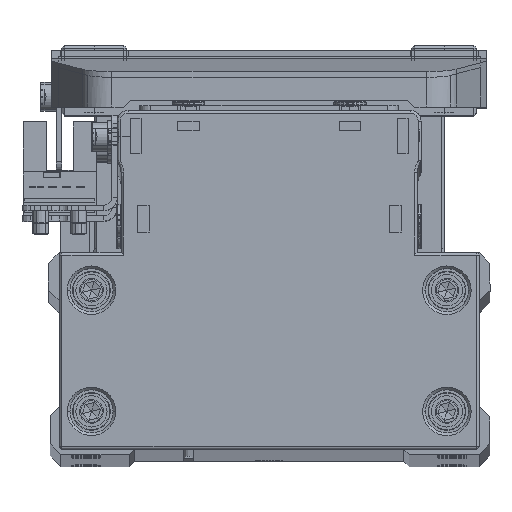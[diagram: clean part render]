
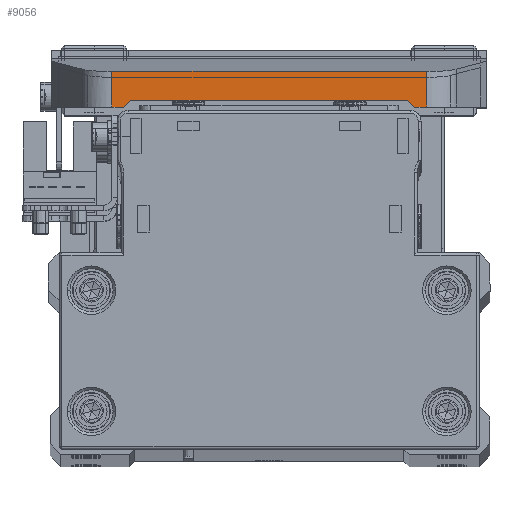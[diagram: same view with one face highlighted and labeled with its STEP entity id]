
A CAD part, top view. The second image highlights one B-rep face of the part: STEP entity #9056.
In plain terms, the highlighted planar face has unit normal (0, 0, 1) as drawn and (-1, 0, 0) by its records, which use the part's own axes.
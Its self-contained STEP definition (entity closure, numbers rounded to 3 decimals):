
#96 = CARTESIAN_POINT ( 'NONE',  ( -67.5, 9.3, 25.5 ) ) ;
#127 = EDGE_CURVE ( 'NONE', #29864, #5211, #14495, .T. ) ;
#1383 = VERTEX_POINT ( 'NONE', #36737 ) ;
#1514 = VECTOR ( 'NONE', #27348, 1000. ) ;
#2276 = ORIENTED_EDGE ( 'NONE', *, *, #24577, .T. ) ;
#2901 = LINE ( 'NONE', #15141, #1514 ) ;
#3125 = DIRECTION ( 'NONE',  ( 0., -1., 0. ) ) ;
#3418 = AXIS2_PLACEMENT_3D ( 'NONE', #8843, #21086, #33302 ) ;
#3722 = VERTEX_POINT ( 'NONE', #9275 ) ;
#3794 = CARTESIAN_POINT ( 'NONE',  ( -67.5, 4., -29.225 ) ) ;
#4105 = LINE ( 'NONE', #16347, #26069 ) ;
#5211 = VERTEX_POINT ( 'NONE', #38350 ) ;
#6226 = ORIENTED_EDGE ( 'NONE', *, *, #8178, .F. ) ;
#7132 = DIRECTION ( 'NONE',  ( 0., 0.655, -0.756 ) ) ;
#7924 = ORIENTED_EDGE ( 'NONE', *, *, #127, .T. ) ;
#8178 = EDGE_CURVE ( 'NONE', #11079, #26959, #38871, .T. ) ;
#8721 = EDGE_CURVE ( 'NONE', #5211, #1383, #27552, .T. ) ;
#8843 = CARTESIAN_POINT ( 'NONE',  ( -67.5, 10.6, 40.4 ) ) ;
#9056 = ADVANCED_FACE ( 'NONE', ( #24071 ), #36297, .F. ) ;
#9275 = CARTESIAN_POINT ( 'NONE',  ( -67.5, 10.6, -27. ) ) ;
#10059 = EDGE_CURVE ( 'NONE', #11079, #14516, #39611, .T. ) ;
#11079 = VERTEX_POINT ( 'NONE', #28709 ) ;
#11189 = VECTOR ( 'NONE', #24374, 1000. ) ;
#11406 = CARTESIAN_POINT ( 'NONE',  ( -67.5, 4., 40.4 ) ) ;
#12143 = CARTESIAN_POINT ( 'NONE',  ( -67.5, 10.6, 29.225 ) ) ;
#12332 = DIRECTION ( 'NONE',  ( 0., 0., -1. ) ) ;
#12473 = EDGE_CURVE ( 'NONE', #3722, #36906, #4105, .T. ) ;
#13298 = CARTESIAN_POINT ( 'NONE',  ( -67.5, 10.6, 27. ) ) ;
#14116 = ORIENTED_EDGE ( 'NONE', *, *, #8721, .T. ) ;
#14495 = LINE ( 'NONE', #26712, #15805 ) ;
#14516 = VERTEX_POINT ( 'NONE', #39527 ) ;
#15141 = CARTESIAN_POINT ( 'NONE',  ( -67.5, 10.6, 40.4 ) ) ;
#15765 = EDGE_CURVE ( 'NONE', #36906, #26959, #18364, .T. ) ;
#15805 = VECTOR ( 'NONE', #38958, 1000. ) ;
#16110 = ORIENTED_EDGE ( 'NONE', *, *, #10059, .T. ) ;
#16347 = CARTESIAN_POINT ( 'NONE',  ( -67.5, 10.6, 40.4 ) ) ;
#18364 = LINE ( 'NONE', #30580, #37762 ) ;
#20453 = VECTOR ( 'NONE', #23635, 1000. ) ;
#21086 = DIRECTION ( 'NONE',  ( 1., 0., 0. ) ) ;
#22376 = LINE ( 'NONE', #34593, #23416 ) ;
#23416 = VECTOR ( 'NONE', #7132, 1000. ) ;
#23635 = DIRECTION ( 'NONE',  ( 0., 0., -1. ) ) ;
#24071 = FACE_OUTER_BOUND ( 'NONE', #31873, .T. ) ;
#24374 = DIRECTION ( 'NONE',  ( 0., 1., 0. ) ) ;
#24577 = EDGE_CURVE ( 'NONE', #14516, #29864, #2901, .T. ) ;
#26069 = VECTOR ( 'NONE', #28552, 1000. ) ;
#26146 = CARTESIAN_POINT ( 'NONE',  ( -67.5, 10.6, -29.225 ) ) ;
#26712 = CARTESIAN_POINT ( 'NONE',  ( -67.5, 10.6, 27. ) ) ;
#26959 = VERTEX_POINT ( 'NONE', #3794 ) ;
#27348 = DIRECTION ( 'NONE',  ( 0., 0., -1. ) ) ;
#27552 = LINE ( 'NONE', #96, #34123 ) ;
#28057 = EDGE_CURVE ( 'NONE', #1383, #3722, #22376, .T. ) ;
#28552 = DIRECTION ( 'NONE',  ( 0., 0., -1. ) ) ;
#28709 = CARTESIAN_POINT ( 'NONE',  ( -67.5, 4., 29.225 ) ) ;
#29864 = VERTEX_POINT ( 'NONE', #13298 ) ;
#30302 = ORIENTED_EDGE ( 'NONE', *, *, #12473, .T. ) ;
#30580 = CARTESIAN_POINT ( 'NONE',  ( -67.5, 4., -29.225 ) ) ;
#31873 = EDGE_LOOP ( 'NONE', ( #14116, #32194, #30302, #39581, #6226, #16110, #2276, #7924 ) ) ;
#32194 = ORIENTED_EDGE ( 'NONE', *, *, #28057, .T. ) ;
#33302 = DIRECTION ( 'NONE',  ( 0., 0., -1. ) ) ;
#34123 = VECTOR ( 'NONE', #12332, 1000. ) ;
#34593 = CARTESIAN_POINT ( 'NONE',  ( -67.5, 10.6, -27. ) ) ;
#36297 = PLANE ( 'NONE',  #3418 ) ;
#36737 = CARTESIAN_POINT ( 'NONE',  ( -67.5, 9.3, -25.5 ) ) ;
#36906 = VERTEX_POINT ( 'NONE', #26146 ) ;
#37762 = VECTOR ( 'NONE', #3125, 1000. ) ;
#38350 = CARTESIAN_POINT ( 'NONE',  ( -67.5, 9.3, 25.5 ) ) ;
#38871 = LINE ( 'NONE', #11406, #20453 ) ;
#38958 = DIRECTION ( 'NONE',  ( 0., -0.655, -0.756 ) ) ;
#39527 = CARTESIAN_POINT ( 'NONE',  ( -67.5, 10.6, 29.225 ) ) ;
#39581 = ORIENTED_EDGE ( 'NONE', *, *, #15765, .T. ) ;
#39611 = LINE ( 'NONE', #12143, #11189 ) ;
